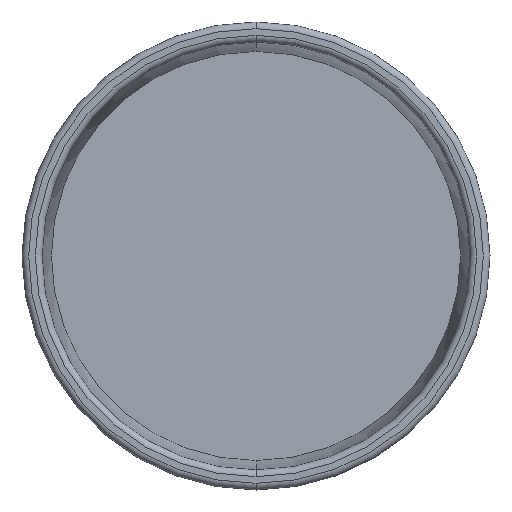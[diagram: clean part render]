
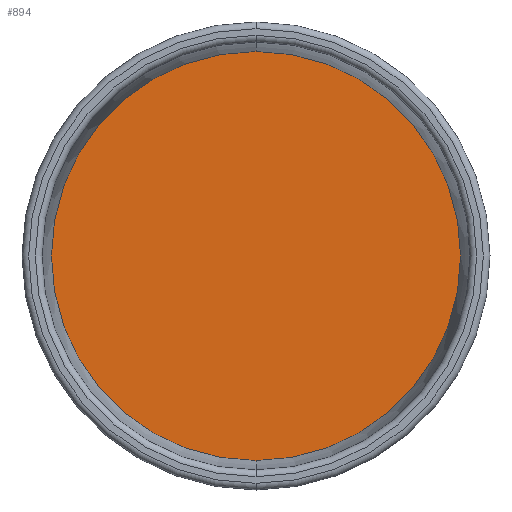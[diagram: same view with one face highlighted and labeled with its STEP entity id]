
A CAD part, front view. The second image highlights one B-rep face of the part: STEP entity #894.
In plain terms, the highlighted planar face has unit normal (0, -1, 0).
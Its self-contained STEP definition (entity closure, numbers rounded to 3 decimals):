
#19 = DIRECTION ( 'NONE',  ( 0., 1., 0. ) ) ;
#46 = ORIENTED_EDGE ( 'NONE', *, *, #813, .F. ) ;
#58 = PLANE ( 'NONE',  #303 ) ;
#71 = CARTESIAN_POINT ( 'NONE',  ( 0., 10.655, 0. ) ) ;
#76 = DIRECTION ( 'NONE',  ( 0., 1., 0. ) ) ;
#257 = EDGE_CURVE ( 'NONE', #467, #692, #992, .T. ) ;
#303 = AXIS2_PLACEMENT_3D ( 'NONE', #312, #729, #978 ) ;
#312 = CARTESIAN_POINT ( 'NONE',  ( -30.591, 10.655, 0. ) ) ;
#347 = EDGE_LOOP ( 'NONE', ( #46, #634 ) ) ;
#467 = VERTEX_POINT ( 'NONE', #764 ) ;
#480 = CIRCLE ( 'NONE', #766, 30.591 ) ;
#484 = DIRECTION ( 'NONE',  ( 0., 0., 1. ) ) ;
#562 = CARTESIAN_POINT ( 'NONE',  ( 0., 10.655, 30.591 ) ) ;
#634 = ORIENTED_EDGE ( 'NONE', *, *, #257, .F. ) ;
#692 = VERTEX_POINT ( 'NONE', #562 ) ;
#729 = DIRECTION ( 'NONE',  ( 0., -1., 0. ) ) ;
#763 = CARTESIAN_POINT ( 'NONE',  ( 0., 10.655, 0. ) ) ;
#764 = CARTESIAN_POINT ( 'NONE',  ( 0., 10.655, -30.591 ) ) ;
#766 = AXIS2_PLACEMENT_3D ( 'NONE', #71, #76, #484 ) ;
#813 = EDGE_CURVE ( 'NONE', #692, #467, #480, .T. ) ;
#894 = ADVANCED_FACE ( 'NONE', ( #1055 ), #58, .T. ) ;
#978 = DIRECTION ( 'NONE',  ( 0., 0., -1. ) ) ;
#992 = CIRCLE ( 'NONE', #1045, 30.591 ) ;
#1022 = DIRECTION ( 'NONE',  ( 0., 0., 1. ) ) ;
#1045 = AXIS2_PLACEMENT_3D ( 'NONE', #763, #19, #1022 ) ;
#1055 = FACE_OUTER_BOUND ( 'NONE', #347, .T. ) ;
